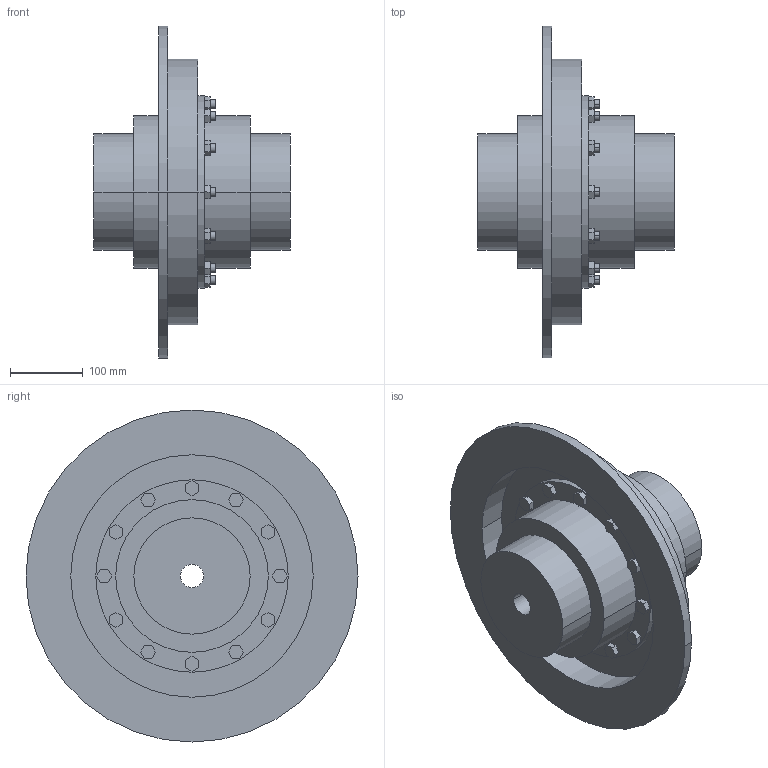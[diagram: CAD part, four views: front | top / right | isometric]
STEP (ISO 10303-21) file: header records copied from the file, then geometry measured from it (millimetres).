
FILE_DESCRIPTION((''),'2;1');
FILE_NAME('A19126300-0_ASM','2018-11-13T',('AB_Roschiwal'),('RENK AG'),'PRO/ENGINEER BY PARAMETRIC TECHNOLOGY CORPORATION, 2015440','PRO/ENGINEER BY PARAMETRIC TECHNOLOGY CORPORATION, 2015440','');
FILE_SCHEMA(('CONFIG_CONTROL_DESIGN'));
Length unit declared in the file: millimetre
Products named in the file (4): LBKT100_GEHAEUSE; LBKT100_NABE; LBKT100_BREMSSCHEIBE; A19126300-0_ASM
Assembly tree (4 placements, depth 2):
  A19126300-0_ASM
    LBKT100_GEHAEUSE
    LBKT100_NABE  x2
    LBKT100_BREMSSCHEIBE
Bounding box: 270 x 457 x 457 mm (x, y, z)
Volume: 9566472.9 mm3; surface area: 981550.1 mm2
Topology: 4 solids, 4 shells, 294 faces, 708 edges, 472 vertices
Faces by surface type: plane 202, cylinder 92
Entity records: 8412 total; most frequent: DIRECTION 1432, CARTESIAN_POINT 1430, ORIENTED_EDGE 1368, EDGE_CURVE 684, VECTOR 516, LINE 516, AXIS2_PLACEMENT_3D 458, VERTEX_POINT 456
